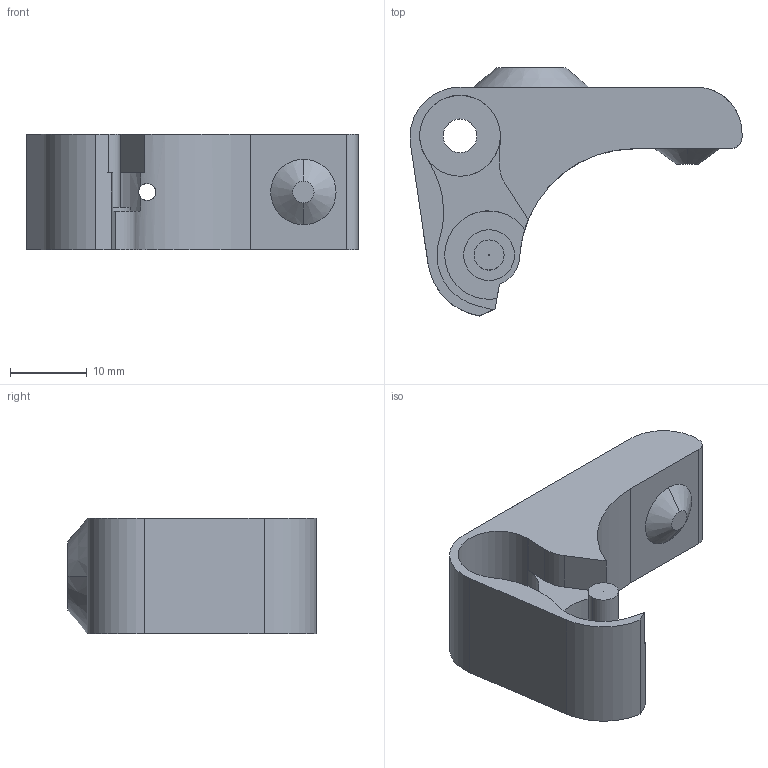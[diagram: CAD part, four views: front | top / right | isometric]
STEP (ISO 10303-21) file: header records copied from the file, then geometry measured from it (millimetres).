
FILE_DESCRIPTION (( 'STEP AP203' ), '1' );
FILE_NAME ('2X_Extruder_Arm_R.STEP', '2014-01-31T05:12:58', ( 'Windows' ), ( '' ), 'SwSTEP 2.0', 'SolidWorks 2013', '' );
FILE_SCHEMA (( 'CONFIG_CONTROL_DESIGN' ));
Length unit declared in the file: millimetre
Products named in the file (1): 2X_Extruder_Arm_R
Bounding box: 43.15 x 32.24 x 15 mm (x, y, z)
Volume: 6921.8 mm3; surface area: 4077.7 mm2
Topology: 1 solids, 1 shells, 62 faces, 163 edges, 105 vertices
Faces by surface type: cylinder 28, plane 20, cone 10, torus 2, sphere 1, bspline 1
Entity records: 2251 total; most frequent: CARTESIAN_POINT 585, DIRECTION 359, ORIENTED_EDGE 322, EDGE_CURVE 161, AXIS2_PLACEMENT_3D 142, VERTEX_POINT 104, CIRCLE 80, LINE 75
